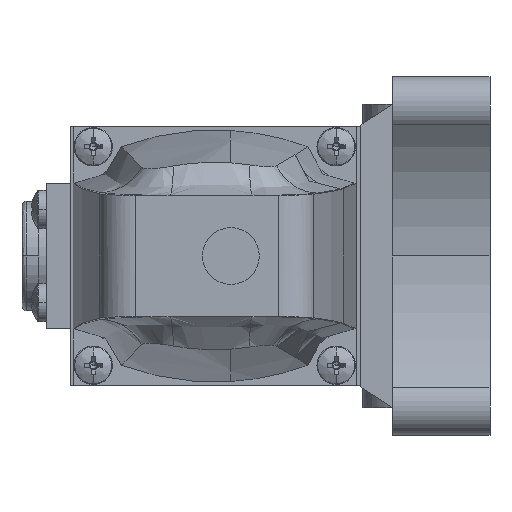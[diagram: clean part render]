
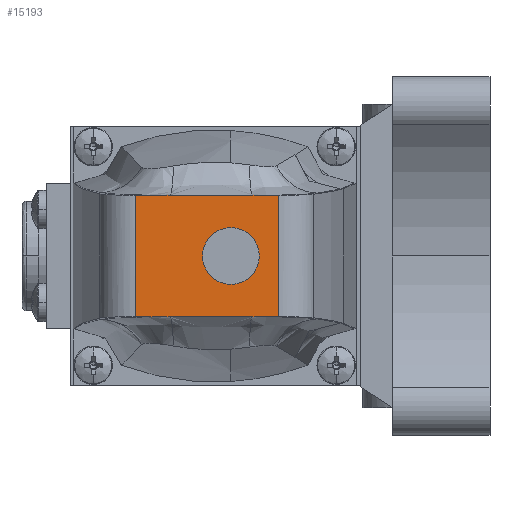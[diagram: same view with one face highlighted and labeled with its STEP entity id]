
A CAD part, left-side view. The second image highlights one B-rep face of the part: STEP entity #15193.
In plain terms, the highlighted planar face has unit normal (-1, 0, 0) as drawn and (0, 1, 0) by its records, which use the part's own axes.
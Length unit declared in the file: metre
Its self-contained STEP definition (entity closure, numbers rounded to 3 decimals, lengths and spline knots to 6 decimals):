
#409 = LINE ( 'NONE', #17195, #11022 ) ;
#429 = CARTESIAN_POINT ( 'NONE',  ( 0.015009, 0.1617, 0.014983 ) ) ;
#439 = FACE_BOUND ( 'NONE', #13430, .T. ) ;
#542 = DIRECTION ( 'NONE',  ( 0., 0., 1. ) ) ;
#643 = ORIENTED_EDGE ( 'NONE', *, *, #11417, .T. ) ;
#644 = CARTESIAN_POINT ( 'NONE',  ( -0.015, 0.1617, 0.023596 ) ) ;
#647 = CARTESIAN_POINT ( 'NONE',  ( 0.015019, 0.1617, 0.011621 ) ) ;
#880 = FACE_OUTER_BOUND ( 'NONE', #10824, .T. ) ;
#884 = CARTESIAN_POINT ( 'NONE',  ( -0.015006, 0.1617, 0.01597 ) ) ;
#964 = EDGE_CURVE ( 'NONE', #3491, #14702, #1760, .T. ) ;
#1002 = CARTESIAN_POINT ( 'NONE',  ( 0.015009, 0.1617, 0.014983 ) ) ;
#1023 = CARTESIAN_POINT ( 'NONE',  ( -0.015014, 0.1617, -0.005189 ) ) ;
#1072 = CARTESIAN_POINT ( 'NONE',  ( 0.015028, 0.1617, 0.008259 ) ) ;
#1088 = EDGE_CURVE ( 'NONE', #6609, #4933, #9385, .T. ) ;
#1094 = CARTESIAN_POINT ( 'NONE',  ( 0.015031, 0.1617, 0.001535 ) ) ;
#1096 = CARTESIAN_POINT ( 'NONE',  ( 0.015014, 0.1617, -0.005189 ) ) ;
#1137 = CARTESIAN_POINT ( 'NONE',  ( 0.015025, 0.1617, -0.001827 ) ) ;
#1162 = CARTESIAN_POINT ( 'NONE',  ( 0.015014, 0.1617, -0.005189 ) ) ;
#1380 = DIRECTION ( 'NONE',  ( -1., 0., 0. ) ) ;
#1441 = DIRECTION ( 'NONE',  ( 0., -1., 0. ) ) ;
#1508 = CARTESIAN_POINT ( 'NONE',  ( 0.015, 0.1617, 0.023596 ) ) ;
#1669 = VERTEX_POINT ( 'NONE', #1508 ) ;
#1760 = CIRCLE ( 'NONE', #13654, 0.007 ) ;
#2086 = ORIENTED_EDGE ( 'NONE', *, *, #5597, .T. ) ;
#2200 = B_SPLINE_CURVE_WITH_KNOTS ( 'NONE', 3,
 ( #15651, #4552, #8728, #429 ),
 .UNSPECIFIED., .F., .F.,
 ( 4, 4 ),
 ( 0., 0.002958 ),
 .UNSPECIFIED. ) ;
#2412 = EDGE_CURVE ( 'NONE', #16262, #1669, #409, .T. ) ;
#2427 = CARTESIAN_POINT ( 'NONE',  ( -0.015, 0.1617, -0.008814 ) ) ;
#2624 = CARTESIAN_POINT ( 'NONE',  ( 0.015011, 0.1617, -0.006397 ) ) ;
#2679 = CARTESIAN_POINT ( 'NONE',  ( 0.015, 0.1617, -0.007605 ) ) ;
#2762 = VERTEX_POINT ( 'NONE', #3341 ) ;
#3028 = CARTESIAN_POINT ( 'NONE',  ( 0.015, 0.1617, -0.008814 ) ) ;
#3197 = VERTEX_POINT ( 'NONE', #10915 ) ;
#3232 = ORIENTED_EDGE ( 'NONE', *, *, #17124, .T. ) ;
#3333 = DIRECTION ( 'NONE',  ( 0., -1., 0. ) ) ;
#3341 = CARTESIAN_POINT ( 'NONE',  ( 0.015, 0.1617, 0.017942 ) ) ;
#3343 = VECTOR ( 'NONE', #8860, 1. ) ;
#3365 = AXIS2_PLACEMENT_3D ( 'NONE', #9738, #1441, #11120 ) ;
#3412 = ORIENTED_EDGE ( 'NONE', *, *, #10592, .T. ) ;
#3491 = VERTEX_POINT ( 'NONE', #15241 ) ;
#3641 = CARTESIAN_POINT ( 'NONE',  ( 0.015, 0.1617, -0.008814 ) ) ;
#3833 = DIRECTION ( 'NONE',  ( 0., 0., 1. ) ) ;
#4475 = VERTEX_POINT ( 'NONE', #5985 ) ;
#4552 = CARTESIAN_POINT ( 'NONE',  ( 0.015, 0.1617, 0.016956 ) ) ;
#4658 = EDGE_CURVE ( 'NONE', #13529, #3197, #14617, .T. ) ;
#4668 = CARTESIAN_POINT ( 'NONE',  ( -0.015, 0.1617, 0.005879 ) ) ;
#4671 = ORIENTED_EDGE ( 'NONE', *, *, #9127, .T. ) ;
#4856 = ORIENTED_EDGE ( 'NONE', *, *, #8169, .T. ) ;
#4933 = VERTEX_POINT ( 'NONE', #7281 ) ;
#5347 = VERTEX_POINT ( 'NONE', #17172 ) ;
#5489 = EDGE_CURVE ( 'NONE', #13832, #16099, #9013, .T. ) ;
#5491 = CARTESIAN_POINT ( 'NONE',  ( 0., 0.1617, -0.011838 ) ) ;
#5517 = EDGE_CURVE ( 'NONE', #4933, #4475, #6750, .T. ) ;
#5597 = EDGE_CURVE ( 'NONE', #3197, #13832, #13411, .T. ) ;
#5985 = CARTESIAN_POINT ( 'NONE',  ( -0.015009, 0.1617, 0.014983 ) ) ;
#5997 = DIRECTION ( 'NONE',  ( 1., 0., 0. ) ) ;
#6339 = ORIENTED_EDGE ( 'NONE', *, *, #964, .T. ) ;
#6428 = CARTESIAN_POINT ( 'NONE',  ( -0.015, 0.1617, 0.016956 ) ) ;
#6431 = VECTOR ( 'NONE', #17214, 1. ) ;
#6609 = VERTEX_POINT ( 'NONE', #15330 ) ;
#6749 = EDGE_CURVE ( 'NONE', #2762, #13529, #2200, .T. ) ;
#6750 = B_SPLINE_CURVE_WITH_KNOTS ( 'NONE', 3,
 ( #13327, #12865, #14272, #14490, #14555, #14661 ),
 .UNSPECIFIED., .F., .F.,
 ( 4, 2, 4 ),
 ( 0., 0.010086, 0.020172 ),
 .UNSPECIFIED. ) ;
#6843 = VECTOR ( 'NONE', #1380, 1. ) ;
#7026 = LINE ( 'NONE', #4668, #3343 ) ;
#7281 = CARTESIAN_POINT ( 'NONE',  ( -0.015014, 0.1617, -0.005189 ) ) ;
#7358 = ORIENTED_EDGE ( 'NONE', *, *, #2412, .T. ) ;
#7515 = CARTESIAN_POINT ( 'NONE',  ( 0.015, 0.1617, 0.005879 ) ) ;
#8121 = LINE ( 'NONE', #13532, #8560 ) ;
#8169 = EDGE_CURVE ( 'NONE', #14702, #3491, #13513, .T. ) ;
#8560 = VECTOR ( 'NONE', #3833, 1. ) ;
#8713 = ORIENTED_EDGE ( 'NONE', *, *, #4658, .T. ) ;
#8728 = CARTESIAN_POINT ( 'NONE',  ( 0.015006, 0.1617, 0.01597 ) ) ;
#8788 = CARTESIAN_POINT ( 'NONE',  ( 0., 0.1617, 0. ) ) ;
#8845 = DIRECTION ( 'NONE',  ( 0., 1., 0. ) ) ;
#8860 = DIRECTION ( 'NONE',  ( 0., 0., 1. ) ) ;
#9013 = LINE ( 'NONE', #9280, #12259 ) ;
#9127 = EDGE_CURVE ( 'NONE', #4475, #17742, #12408, .T. ) ;
#9154 = CARTESIAN_POINT ( 'NONE',  ( -0.007, 0.1617, 0. ) ) ;
#9225 = ORIENTED_EDGE ( 'NONE', *, *, #5517, .T. ) ;
#9280 = CARTESIAN_POINT ( 'NONE',  ( 0.015, 0.1617, 0.005879 ) ) ;
#9385 = B_SPLINE_CURVE_WITH_KNOTS ( 'NONE', 3,
 ( #2427, #13512, #11615, #1023 ),
 .UNSPECIFIED., .F., .F.,
 ( 4, 4 ),
 ( 0., 0.003625 ),
 .UNSPECIFIED. ) ;
#9412 = DIRECTION ( 'NONE',  ( 0., 0., -1. ) ) ;
#9738 = CARTESIAN_POINT ( 'NONE',  ( 0., 0.1617, 0. ) ) ;
#10575 = CARTESIAN_POINT ( 'NONE',  ( 0.015009, 0.1617, 0.014983 ) ) ;
#10592 = EDGE_CURVE ( 'NONE', #16099, #5347, #17043, .T. ) ;
#10824 = EDGE_LOOP ( 'NONE', ( #2086, #16918, #3412, #643, #12782, #9225, #4671, #16717, #7358, #3232, #12977, #8713 ) ) ;
#10915 = CARTESIAN_POINT ( 'NONE',  ( 0.015014, 0.1617, -0.005189 ) ) ;
#11022 = VECTOR ( 'NONE', #17796, 1. ) ;
#11096 = EDGE_CURVE ( 'NONE', #17742, #16262, #8121, .T. ) ;
#11120 = DIRECTION ( 'NONE',  ( 1., 0., 0. ) ) ;
#11417 = EDGE_CURVE ( 'NONE', #5347, #6609, #7026, .T. ) ;
#11554 = CARTESIAN_POINT ( 'NONE',  ( -0.015211, 0.1617, -0.011838 ) ) ;
#11615 = CARTESIAN_POINT ( 'NONE',  ( -0.015011, 0.1617, -0.006397 ) ) ;
#11946 = CARTESIAN_POINT ( 'NONE',  ( -0.015009, 0.1617, 0.014983 ) ) ;
#12259 = VECTOR ( 'NONE', #9412, 1. ) ;
#12400 = CARTESIAN_POINT ( 'NONE',  ( 0.015, 0.1617, -0.011838 ) ) ;
#12408 = B_SPLINE_CURVE_WITH_KNOTS ( 'NONE', 3,
 ( #11946, #884, #6428, #16145 ),
 .UNSPECIFIED., .F., .F.,
 ( 4, 4 ),
 ( 0., 0.002958 ),
 .UNSPECIFIED. ) ;
#12782 = ORIENTED_EDGE ( 'NONE', *, *, #1088, .T. ) ;
#12865 = CARTESIAN_POINT ( 'NONE',  ( -0.015025, 0.1617, -0.001827 ) ) ;
#12977 = ORIENTED_EDGE ( 'NONE', *, *, #6749, .T. ) ;
#13327 = CARTESIAN_POINT ( 'NONE',  ( -0.015014, 0.1617, -0.005189 ) ) ;
#13411 = B_SPLINE_CURVE_WITH_KNOTS ( 'NONE', 3,
 ( #1096, #2624, #2679, #3641 ),
 .UNSPECIFIED., .F., .F.,
 ( 4, 4 ),
 ( 0., 0.003625 ),
 .UNSPECIFIED. ) ;
#13430 = EDGE_LOOP ( 'NONE', ( #6339, #4856 ) ) ;
#13512 = CARTESIAN_POINT ( 'NONE',  ( -0.015, 0.1617, -0.007605 ) ) ;
#13513 = CIRCLE ( 'NONE', #3365, 0.007 ) ;
#13529 = VERTEX_POINT ( 'NONE', #10575 ) ;
#13532 = CARTESIAN_POINT ( 'NONE',  ( -0.015, 0.1617, 0.005879 ) ) ;
#13654 = AXIS2_PLACEMENT_3D ( 'NONE', #8788, #3333, #5997 ) ;
#13832 = VERTEX_POINT ( 'NONE', #3028 ) ;
#14011 = AXIS2_PLACEMENT_3D ( 'NONE', #11554, #8845, #542 ) ;
#14272 = CARTESIAN_POINT ( 'NONE',  ( -0.015031, 0.1617, 0.001535 ) ) ;
#14490 = CARTESIAN_POINT ( 'NONE',  ( -0.015028, 0.1617, 0.008259 ) ) ;
#14555 = CARTESIAN_POINT ( 'NONE',  ( -0.015019, 0.1617, 0.011621 ) ) ;
#14617 = B_SPLINE_CURVE_WITH_KNOTS ( 'NONE', 3,
 ( #1002, #647, #1072, #1094, #1137, #1162 ),
 .UNSPECIFIED., .F., .F.,
 ( 4, 2, 4 ),
 ( 0., 0.010086, 0.020172 ),
 .UNSPECIFIED. ) ;
#14661 = CARTESIAN_POINT ( 'NONE',  ( -0.015009, 0.1617, 0.014983 ) ) ;
#14702 = VERTEX_POINT ( 'NONE', #9154 ) ;
#15193 = ADVANCED_FACE ( 'NONE', ( #439, #880 ), #17162, .T. ) ;
#15241 = CARTESIAN_POINT ( 'NONE',  ( 0.007, 0.1617, 0. ) ) ;
#15330 = CARTESIAN_POINT ( 'NONE',  ( -0.015, 0.1617, -0.008814 ) ) ;
#15651 = CARTESIAN_POINT ( 'NONE',  ( 0.015, 0.1617, 0.017942 ) ) ;
#16099 = VERTEX_POINT ( 'NONE', #12400 ) ;
#16145 = CARTESIAN_POINT ( 'NONE',  ( -0.015, 0.1617, 0.017942 ) ) ;
#16262 = VERTEX_POINT ( 'NONE', #644 ) ;
#16717 = ORIENTED_EDGE ( 'NONE', *, *, #11096, .T. ) ;
#16918 = ORIENTED_EDGE ( 'NONE', *, *, #5489, .T. ) ;
#17043 = LINE ( 'NONE', #5491, #6843 ) ;
#17079 = LINE ( 'NONE', #7515, #6431 ) ;
#17124 = EDGE_CURVE ( 'NONE', #1669, #2762, #17079, .T. ) ;
#17146 = CARTESIAN_POINT ( 'NONE',  ( -0.015, 0.1617, 0.017942 ) ) ;
#17162 = PLANE ( 'NONE',  #14011 ) ;
#17172 = CARTESIAN_POINT ( 'NONE',  ( -0.015, 0.1617, -0.011838 ) ) ;
#17195 = CARTESIAN_POINT ( 'NONE',  ( 0., 0.1617, 0.023596 ) ) ;
#17214 = DIRECTION ( 'NONE',  ( 0., 0., -1. ) ) ;
#17742 = VERTEX_POINT ( 'NONE', #17146 ) ;
#17796 = DIRECTION ( 'NONE',  ( 1., 0., 0. ) ) ;
